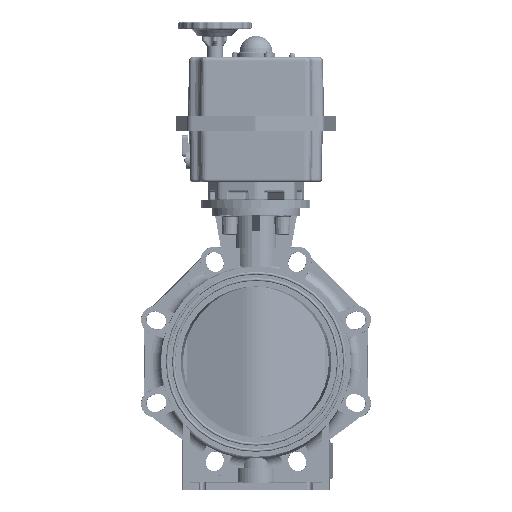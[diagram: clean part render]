
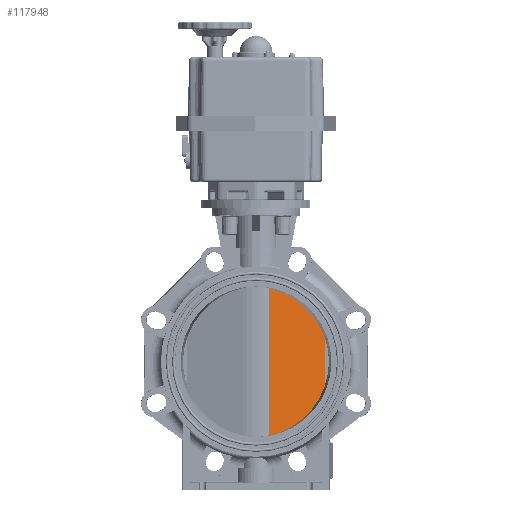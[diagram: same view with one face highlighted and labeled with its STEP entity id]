
A CAD part, front view. The second image highlights one B-rep face of the part: STEP entity #117948.
In plain terms, the highlighted planar face has unit normal (0.285, -0.958, 0).
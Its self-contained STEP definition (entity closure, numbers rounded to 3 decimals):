
#117780=CARTESIAN_POINT('',(-285.572,-49.592,28.763));
#117781=VERTEX_POINT('',#117780);
#117795=CARTESIAN_POINT('',(-210.933,-27.373,-36.022));
#117796=VERTEX_POINT('',#117795);
#117797=CARTESIAN_POINT('',(-307.333,-56.07,-71.619));
#117798=DIRECTION('',(-0.285,0.958,0.));
#117799=DIRECTION('',(-0.958,-0.285,0.));
#117800=AXIS2_PLACEMENT_3D('',#117797,#117798,#117799);
#117801=ELLIPSE('',#117800,107.227,102.711);
#117802=EDGE_CURVE('',#117781,#117796,#117801,.T.);
#117804=CARTESIAN_POINT('',(-210.933,-27.373,-107.216));
#117805=VERTEX_POINT('',#117804);
#117813=CARTESIAN_POINT('',(-285.572,-49.592,-172.));
#117814=VERTEX_POINT('',#117813);
#117815=CARTESIAN_POINT('',(-307.333,-56.07,-71.619));
#117816=DIRECTION('',(-0.285,0.958,0.));
#117817=DIRECTION('',(-0.958,-0.285,0.));
#117818=AXIS2_PLACEMENT_3D('',#117815,#117816,#117817);
#117819=ELLIPSE('',#117818,107.227,102.711);
#117820=EDGE_CURVE('',#117805,#117814,#117819,.T.);
#117904=CARTESIAN_POINT('',(-285.572,-49.592,-172.));
#117905=DIRECTION('',(0.0,0.0,1.0));
#117906=VECTOR('',#117905,200.763);
#117907=LINE('',#117904,#117906);
#117908=EDGE_CURVE('',#117814,#117781,#117907,.T.);
#117914=CARTESIAN_POINT('',(-285.572,-49.592,-288.419));
#117915=DIRECTION('',(0.285,-0.958,0.));
#117916=DIRECTION('',(0.0,0.0,-1.0));
#117917=AXIS2_PLACEMENT_3D('',#117914,#117915,#117916);
#117918=PLANE('',#117917);
#117919=ORIENTED_EDGE('',*,*,#117908,.F.);
#117920=ORIENTED_EDGE('',*,*,#117820,.F.);
#117921=CARTESIAN_POINT('',(-209.254,-26.873,-102.476));
#117922=VERTEX_POINT('',#117921);
#117923=CARTESIAN_POINT('',(-303.848,-55.032,-71.619));
#117924=DIRECTION('',(0.285,-0.958,0.));
#117925=DIRECTION('',(-0.958,-0.285,0.));
#117926=AXIS2_PLACEMENT_3D('',#117923,#117924,#117925);
#117927=ELLIPSE('',#117926,103.815,99.5);
#117928=EDGE_CURVE('',#117805,#117922,#117927,.T.);
#117929=ORIENTED_EDGE('',*,*,#117928,.T.);
#117930=CARTESIAN_POINT('',(-209.254,-26.873,-40.761));
#117931=VERTEX_POINT('',#117930);
#117932=CARTESIAN_POINT('',(-209.254,-26.873,-102.476));
#117933=DIRECTION('',(0.0,0.0,1.0));
#117934=VECTOR('',#117933,61.715);
#117935=LINE('',#117932,#117934);
#117936=EDGE_CURVE('',#117922,#117931,#117935,.T.);
#117937=ORIENTED_EDGE('',*,*,#117936,.T.);
#117938=CARTESIAN_POINT('',(-303.848,-55.032,-71.619));
#117939=DIRECTION('',(0.285,-0.958,0.));
#117940=DIRECTION('',(-0.958,-0.285,0.));
#117941=AXIS2_PLACEMENT_3D('',#117938,#117939,#117940);
#117942=ELLIPSE('',#117941,103.815,99.5);
#117943=EDGE_CURVE('',#117931,#117796,#117942,.T.);
#117944=ORIENTED_EDGE('',*,*,#117943,.T.);
#117945=ORIENTED_EDGE('',*,*,#117802,.F.);
#117946=EDGE_LOOP('',(#117919,#117920,#117929,#117937,#117944,#117945));
#117947=FACE_OUTER_BOUND('',#117946,.T.);
#117948=ADVANCED_FACE('',(#117947),#117918,.T.);
